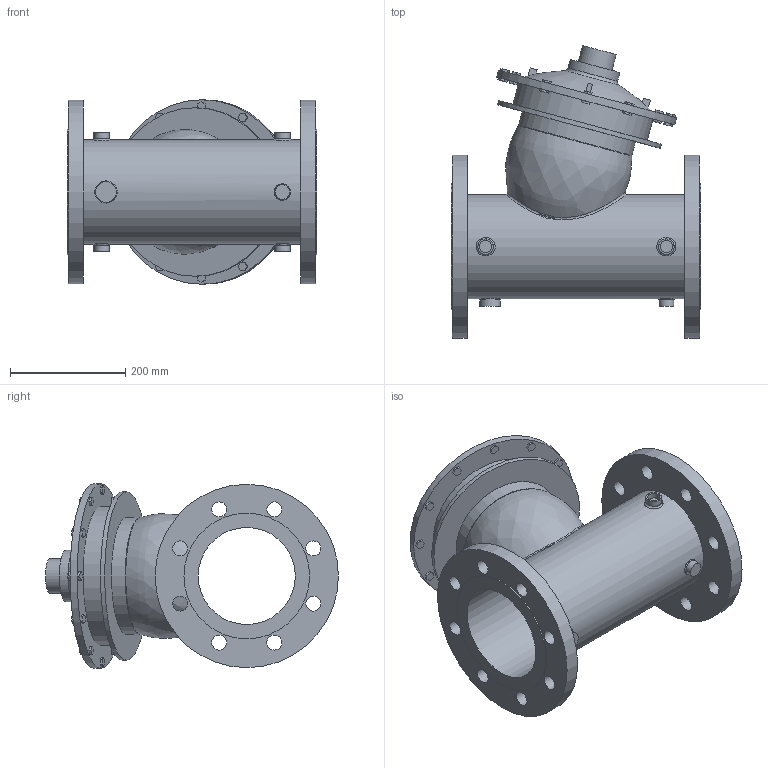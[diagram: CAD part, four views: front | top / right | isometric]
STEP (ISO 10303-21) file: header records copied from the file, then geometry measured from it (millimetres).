
FILE_DESCRIPTION(/* description */ ('VIC FP VALVE PRESSURE RELIEF SERIES 867-7UF (PN25)','CAx-IF Rec.Pracs.---Representation and Presentation of Product Manufacturing Information (PMI)---4.0---2014-10-13'),/* implementation_level */ '2;1');
FILE_NAME(/* name */ 'C:\Series 867-7UF\New folder (2)\step\Victaulic_FP-Bermad_Valve Pressure Relief_Series 867-7UF (PN25)\Victaulic_FP-Bermad_Valve Pressure Relief_Series 867-7UF (PN25)_6 (150).stp',/* time_stamp */ '2021-09-02T12:56:10+05:00',/* author */ ('kkamble'),/* organization */ ('Victaulic'),/* preprocessor_version */ 'ST-DEVELOPER v17.2',/* originating_system */ 'Autodesk Inventor 2019',/* authorisation */ '');
FILE_SCHEMA (('AP242_MANAGED_MODEL_BASED_3D_ENGINEERING_MIM_LF { 1 0 10303 442 1 1 4 }'));
Length unit declared in the file: inch
Products named in the file (1): 867-7UF-06.0
Bounding box: 433.07 x 508 x 320.04 mm (x, y, z)
Volume: 12883576.2 mm3; surface area: 1120856.4 mm2
Topology: 6 solids, 6 shells, 277 faces, 690 edges, 465 vertices
Faces by surface type: plane 210, cylinder 46, bspline 17, torus 4
Full cylindrical faces by diameter (mm): 21.336 x4, 25.4 x1, 25.908 x16, 26.873 x4, 35.56 x1, 60.325 x1, 88.9 x1, 168.275 x1, 180.975 x1, 203.2 x1, 217.932 x2, 241.3 x1, 292.1 x1, 318.008 x2, 320.04 x1
Entity records: 9895 total; most frequent: CARTESIAN_POINT 2840, ORIENTED_EDGE 1392, DIRECTION 1295, EDGE_CURVE 696, LINE 511, VECTOR 511, VERTEX_POINT 471, AXIS2_PLACEMENT_3D 392
